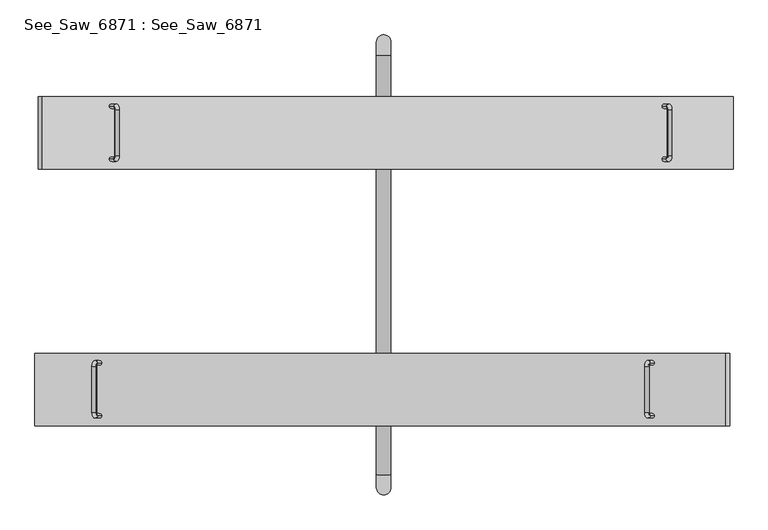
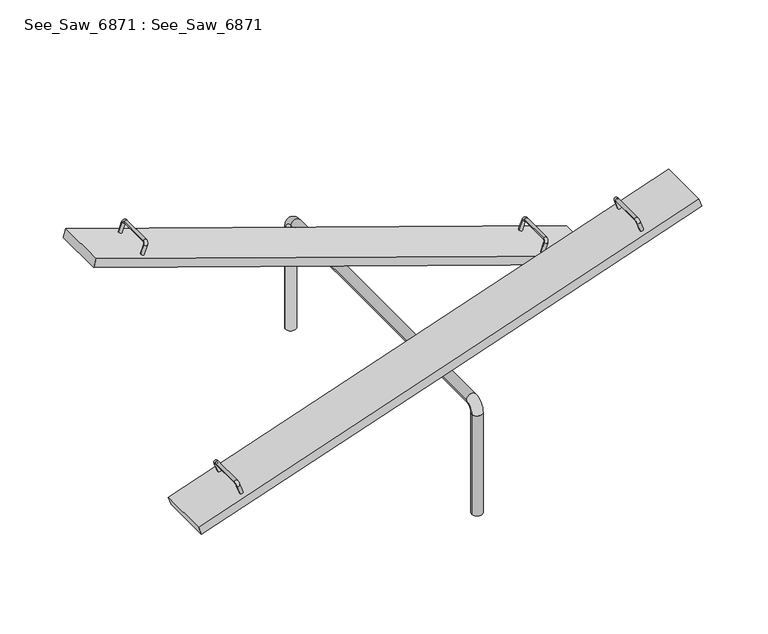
"""IFC4 building model written with IfcOpenShell, lengths in millimetres: proxy geometry, See_Saw_6871 : See_Saw_6871."""

from ifc_helpers import new_model, si_unit, point, frame, origin, place, context, project, spatial, polyline, circle_curve, ellipse_curve, trimmed, outline, extrude, source, transform, mapped, element, save
from ifc_brep_helpers import plane_surface, cylinder_surface, revolved_surface, advanced_brep


def see_saw_6871_see_saw_6871_e7888e2e(model_context):
    return source(origin(), model_context, "Body", "SolidModel", [
        advanced_brep(
        [(1177.7831476, 646.6397404, 163.5597519), (1159.8258272, 646.6397404, 169.9187726), (1178.9028892, 646.6397404, 223.7907338), (1196.8602096, 646.6397404, 217.4317132), (1184.0202339, 631.3094843, 238.2416693), (1201.9775543, 631.3094843, 231.8826486), (1184.0202339, 440.8094843, 238.2416693), (1201.9775543, 440.8094843, 231.8826486), (1178.9028892, 425.4792282, 223.7907338), (1196.8602096, 425.4792282, 217.4317132), (1177.7831476, 425.4792282, 163.5597519), (1159.8258272, 425.4792282, 169.9187726)],
        [
            (0, 1, circle_curve(frame((1168.8044874, 646.6397404, 166.7392623), z_axis=(-0.333806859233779, 0.0, -0.9426414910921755), x_axis=(-0.9426414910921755, 0.0, 0.333806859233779)), 9.525)),
            (1, 0, circle_curve(frame((1168.8044874, 646.6397404, 166.7392623), z_axis=(-0.333806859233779, 0.0, -0.9426414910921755), x_axis=(-0.9426414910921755, 0.0, 0.333806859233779)), 9.525)),
            (1, 2),
            (2, 3, circle_curve(frame((1187.8815494, 646.6397404, 220.6112235), z_axis=(-0.333806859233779, 0.0, -0.9426414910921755), x_axis=(-0.9426414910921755, 0.0, 0.333806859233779)), 9.525)),
            (3, 0),
            (3, 2, circle_curve(frame((1187.8815494, 646.6397404, 220.6112235), z_axis=(-0.333806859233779, 0.0, -0.9426414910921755), x_axis=(-0.9426414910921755, 0.0, 0.333806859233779)), 9.525)),
            (4, 5, circle_curve(frame((1192.9988941, 631.3094843, 235.062159), z_axis=(0.0, 1.0, 0.0), x_axis=(-0.9426414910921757, 0.0, 0.333806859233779)), 9.525)),
            (5, 3, circle_curve(frame((1196.8602096, 631.3094843, 217.4317132), z_axis=(-0.9426414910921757, 0.0, 0.3338068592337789), x_axis=(0.0, 1.0, 0.0)), 15.3302561)),
            (2, 4, circle_curve(frame((1178.9028892, 631.3094843, 223.7907338), z_axis=(0.9426414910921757, 0.0, -0.3338068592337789), x_axis=(0.0, 1.0, 0.0)), 15.3302561)),
            (5, 4, circle_curve(frame((1192.9988941, 631.3094843, 235.062159), z_axis=(0.0, 1.0, 0.0), x_axis=(-0.9426414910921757, 0.0, 0.333806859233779)), 9.525)),
            (4, 6),
            (6, 7, circle_curve(frame((1192.9988941, 440.8094843, 235.062159), z_axis=(0.0, 1.0, 0.0), x_axis=(-0.9426414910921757, 0.0, 0.333806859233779)), 9.525)),
            (7, 5),
            (7, 6, circle_curve(frame((1192.9988941, 440.8094843, 235.062159), z_axis=(0.0, 1.0, 0.0), x_axis=(-0.9426414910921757, 0.0, 0.333806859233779)), 9.525)),
            (8, 9, circle_curve(frame((1187.8815494, 425.4792282, 220.6112235), z_axis=(0.3338068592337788, 0.0, 0.9426414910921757), x_axis=(-0.9426414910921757, 0.0, 0.3338068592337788)), 9.525)),
            (9, 7, circle_curve(frame((1196.8602096, 440.8094843, 217.4317132), z_axis=(-0.9426414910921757, 0.0, 0.3338068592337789), x_axis=(0.3338068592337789, 0.0, 0.9426414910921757)), 15.3302561)),
            (6, 8, circle_curve(frame((1178.9028892, 440.8094843, 223.7907338), z_axis=(0.9426414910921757, 0.0, -0.3338068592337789), x_axis=(0.3338068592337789, 0.0, 0.9426414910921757)), 15.3302561)),
            (9, 8, circle_curve(frame((1187.8815494, 425.4792282, 220.6112235), z_axis=(0.3338068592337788, 0.0, 0.9426414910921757), x_axis=(-0.9426414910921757, 0.0, 0.3338068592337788)), 9.525)),
            (10, 11, circle_curve(frame((1168.8044874, 425.4792282, 166.7392623), z_axis=(-0.33380685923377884, 0.0, -0.9426414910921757), x_axis=(-0.9426414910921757, 0.0, 0.33380685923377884)), 9.525)),
            (11, 10, circle_curve(frame((1168.8044874, 425.4792282, 166.7392623), z_axis=(-0.33380685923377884, 0.0, -0.9426414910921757), x_axis=(-0.9426414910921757, 0.0, 0.33380685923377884)), 9.525)),
            (8, 11),
            (10, 9),
        ],
        [
            plane_surface(frame((1168.8044874, 646.6397404, 166.7392623), z_axis=(-0.333806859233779, 0.0, -0.9426414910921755), x_axis=(-0.9426414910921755, 0.0, 0.333806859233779))),
            cylinder_surface(frame((1168.8044874, 646.6397404, 166.7392623), z_axis=(-0.333806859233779, 0.0, -0.9426414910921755), x_axis=(-0.9426414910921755, 0.0, 0.333806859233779)), 9.525),
            revolved_surface(trimmed(ellipse_curve(frame((1187.8815494, 646.6397404, 220.6112235), z_axis=(0.333806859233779, 0.0, 0.9426414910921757), x_axis=(-0.9426414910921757, 0.0, 0.333806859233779)), 9.525, 9.525), [point((1196.8602096, 646.6397404, 217.4317132))], [point((1178.9028892, 646.6397404, 223.7907338))], True, "CARTESIAN"), (1187.8815494, 631.3094843, 220.6112235), (-0.9426414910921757, 0.0, 0.3338068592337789)),
            revolved_surface(trimmed(ellipse_curve(frame((1187.8815494, 646.6397404, 220.6112235), z_axis=(0.333806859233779, 0.0, 0.9426414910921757), x_axis=(-0.9426414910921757, 0.0, 0.333806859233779)), 9.525, 9.525), [point((1178.9028892, 646.6397404, 223.7907338))], [point((1196.8602096, 646.6397404, 217.4317132))], True, "CARTESIAN"), (1187.8815494, 631.3094843, 220.6112235), (-0.9426414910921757, 0.0, 0.3338068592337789)),
            cylinder_surface(frame((1192.9988941, 631.3094843, 235.062159), z_axis=(0.0, 1.0000000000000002, 0.0), x_axis=(-0.9426414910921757, 0.0, 0.333806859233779)), 9.525),
            revolved_surface(trimmed(ellipse_curve(frame((1192.9988941, 440.8094843, 235.062159), z_axis=(0.0, -1.0, 0.0), x_axis=(-0.9426414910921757, 0.0, 0.333806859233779)), 9.525, 9.525), [point((1201.9775543, 440.8094843, 231.8826486))], [point((1184.0202339, 440.8094843, 238.2416693))], True, "CARTESIAN"), (1187.8815494, 440.8094843, 220.6112235), (-0.9426414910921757, 0.0, 0.3338068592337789)),
            revolved_surface(trimmed(ellipse_curve(frame((1192.9988941, 440.8094843, 235.062159), z_axis=(0.0, -1.0, 0.0), x_axis=(-0.9426414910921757, 0.0, 0.333806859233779)), 9.525, 9.525), [point((1184.0202339, 440.8094843, 238.2416693))], [point((1201.9775543, 440.8094843, 231.8826486))], True, "CARTESIAN"), (1187.8815494, 440.8094843, 220.6112235), (-0.9426414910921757, 0.0, 0.3338068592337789)),
            plane_surface(frame((1168.8044874, 425.4792282, 166.7392623), z_axis=(-0.3338068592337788, 0.0, -0.9426414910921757), x_axis=(-0.9426414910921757, 0.0, 0.3338068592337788))),
            cylinder_surface(frame((1187.8815494, 425.4792282, 220.6112235), z_axis=(0.33380685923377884, 0.0, 0.9426414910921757), x_axis=(-0.9426414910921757, 0.0, 0.33380685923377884)), 9.525),
        ],
        [
            (0, [[1, 2]]),
            (1, [[3, 4, 5, -2]]),
            (1, [[-5, 6, -3, -1]]),
            (2, [[7, 8, -4, 9]]),
            (3, [[10, -9, -6, -8]]),
            (4, [[11, 12, 13, -7]]),
            (4, [[-13, 14, -11, -10]]),
            (5, [[15, 16, -12, 17]]),
            (6, [[18, -17, -14, -16]]),
            (7, [[19, 20]]),
            (8, [[21, -19, 22, -15]]),
            (8, [[-22, -20, -21, -18]]),
        ],
    ),
        advanced_brep(
        [(-1127.7693471, 646.6397404, 957.4251398), (-1145.7266675, 646.6397404, 963.7841604), (-1126.6496055, 646.6397404, 1017.6561217), (-1108.6922851, 646.6397404, 1011.297101), (-1121.5322609, 631.3094843, 1032.1070571), (-1103.5749404, 631.3094843, 1025.7480365), (-1121.5322609, 440.8094843, 1032.1070571), (-1103.5749404, 440.8094843, 1025.7480365), (-1126.6496055, 425.4792282, 1017.6561217), (-1108.6922851, 425.4792282, 1011.297101), (-1127.7693471, 425.4792282, 957.4251398), (-1145.7266675, 425.4792282, 963.7841604)],
        [
            (0, 1, circle_curve(frame((-1136.7480073, 646.6397404, 960.6046501), z_axis=(-0.333806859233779, 0.0, -0.9426414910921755), x_axis=(-0.9426414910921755, 0.0, 0.333806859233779)), 9.525)),
            (1, 0, circle_curve(frame((-1136.7480073, 646.6397404, 960.6046501), z_axis=(-0.333806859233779, 0.0, -0.9426414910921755), x_axis=(-0.9426414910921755, 0.0, 0.333806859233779)), 9.525)),
            (1, 2),
            (2, 3, circle_curve(frame((-1117.6709453, 646.6397404, 1014.4766113), z_axis=(-0.333806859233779, 0.0, -0.9426414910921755), x_axis=(-0.9426414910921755, 0.0, 0.333806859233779)), 9.525)),
            (3, 0),
            (3, 2, circle_curve(frame((-1117.6709453, 646.6397404, 1014.4766113), z_axis=(-0.333806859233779, 0.0, -0.9426414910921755), x_axis=(-0.9426414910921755, 0.0, 0.333806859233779)), 9.525)),
            (4, 5, circle_curve(frame((-1112.5536007, 631.3094843, 1028.9275468), z_axis=(0.0, 1.0, 0.0), x_axis=(-0.9426414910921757, 0.0, 0.333806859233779)), 9.525)),
            (5, 3, circle_curve(frame((-1108.6922851, 631.3094843, 1011.297101), z_axis=(-0.9426414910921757, 0.0, 0.3338068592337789), x_axis=(0.0, 1.0, 0.0)), 15.3302561)),
            (2, 4, circle_curve(frame((-1126.6496055, 631.3094843, 1017.6561217), z_axis=(0.9426414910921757, 0.0, -0.3338068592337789), x_axis=(0.0, 1.0, 0.0)), 15.3302561)),
            (5, 4, circle_curve(frame((-1112.5536007, 631.3094843, 1028.9275468), z_axis=(0.0, 1.0, 0.0), x_axis=(-0.9426414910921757, 0.0, 0.333806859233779)), 9.525)),
            (4, 6),
            (6, 7, circle_curve(frame((-1112.5536007, 440.8094843, 1028.9275468), z_axis=(0.0, 1.0, 0.0), x_axis=(-0.9426414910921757, 0.0, 0.333806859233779)), 9.525)),
            (7, 5),
            (7, 6, circle_curve(frame((-1112.5536007, 440.8094843, 1028.9275468), z_axis=(0.0, 1.0, 0.0), x_axis=(-0.9426414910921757, 0.0, 0.333806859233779)), 9.525)),
            (8, 9, circle_curve(frame((-1117.6709453, 425.4792282, 1014.4766113), z_axis=(0.3338068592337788, 0.0, 0.9426414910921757), x_axis=(-0.9426414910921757, 0.0, 0.3338068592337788)), 9.525)),
            (9, 7, circle_curve(frame((-1108.6922851, 440.8094843, 1011.297101), z_axis=(-0.9426414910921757, 0.0, 0.3338068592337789), x_axis=(0.3338068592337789, 0.0, 0.9426414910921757)), 15.3302561)),
            (6, 8, circle_curve(frame((-1126.6496055, 440.8094843, 1017.6561217), z_axis=(0.9426414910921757, 0.0, -0.3338068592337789), x_axis=(0.3338068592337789, 0.0, 0.9426414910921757)), 15.3302561)),
            (9, 8, circle_curve(frame((-1117.6709453, 425.4792282, 1014.4766113), z_axis=(0.3338068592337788, 0.0, 0.9426414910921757), x_axis=(-0.9426414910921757, 0.0, 0.3338068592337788)), 9.525)),
            (10, 11, circle_curve(frame((-1136.7480073, 425.4792282, 960.6046501), z_axis=(-0.33380685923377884, 0.0, -0.9426414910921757), x_axis=(-0.9426414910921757, 0.0, 0.33380685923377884)), 9.525)),
            (11, 10, circle_curve(frame((-1136.7480073, 425.4792282, 960.6046501), z_axis=(-0.33380685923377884, 0.0, -0.9426414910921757), x_axis=(-0.9426414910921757, 0.0, 0.33380685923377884)), 9.525)),
            (8, 11),
            (10, 9),
        ],
        [
            plane_surface(frame((-1136.7480073, 646.6397404, 960.6046501), z_axis=(-0.333806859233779, 0.0, -0.9426414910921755), x_axis=(-0.9426414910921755, 0.0, 0.333806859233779))),
            cylinder_surface(frame((-1136.7480073, 646.6397404, 960.6046501), z_axis=(-0.333806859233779, 0.0, -0.9426414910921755), x_axis=(-0.9426414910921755, 0.0, 0.333806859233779)), 9.525),
            revolved_surface(trimmed(ellipse_curve(frame((-1117.6709453, 646.6397404, 1014.4766113), z_axis=(0.333806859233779, 0.0, 0.9426414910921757), x_axis=(-0.9426414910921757, 0.0, 0.333806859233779)), 9.525, 9.525), [point((-1108.6922851, 646.6397404, 1011.297101))], [point((-1126.6496055, 646.6397404, 1017.6561217))], True, "CARTESIAN"), (-1117.6709453, 631.3094843, 1014.4766113), (-0.9426414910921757, 0.0, 0.3338068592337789)),
            revolved_surface(trimmed(ellipse_curve(frame((-1117.6709453, 646.6397404, 1014.4766113), z_axis=(0.333806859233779, 0.0, 0.9426414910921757), x_axis=(-0.9426414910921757, 0.0, 0.333806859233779)), 9.525, 9.525), [point((-1126.6496055, 646.6397404, 1017.6561217))], [point((-1108.6922851, 646.6397404, 1011.297101))], True, "CARTESIAN"), (-1117.6709453, 631.3094843, 1014.4766113), (-0.9426414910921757, 0.0, 0.3338068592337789)),
            cylinder_surface(frame((-1112.5536007, 631.3094843, 1028.9275468), z_axis=(0.0, 1.0000000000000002, 0.0), x_axis=(-0.9426414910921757, 0.0, 0.333806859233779)), 9.525),
            revolved_surface(trimmed(ellipse_curve(frame((-1112.5536007, 440.8094843, 1028.9275468), z_axis=(0.0, -1.0, 0.0), x_axis=(-0.9426414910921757, 0.0, 0.333806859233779)), 9.525, 9.525), [point((-1103.5749404, 440.8094843, 1025.7480365))], [point((-1121.5322609, 440.8094843, 1032.1070571))], True, "CARTESIAN"), (-1117.6709453, 440.8094843, 1014.4766113), (-0.9426414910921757, 0.0, 0.3338068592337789)),
            revolved_surface(trimmed(ellipse_curve(frame((-1112.5536007, 440.8094843, 1028.9275468), z_axis=(0.0, -1.0, 0.0), x_axis=(-0.9426414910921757, 0.0, 0.333806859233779)), 9.525, 9.525), [point((-1121.5322609, 440.8094843, 1032.1070571))], [point((-1103.5749404, 440.8094843, 1025.7480365))], True, "CARTESIAN"), (-1117.6709453, 440.8094843, 1014.4766113), (-0.9426414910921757, 0.0, 0.3338068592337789)),
            plane_surface(frame((-1136.7480073, 425.4792282, 960.6046501), z_axis=(-0.33380685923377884, 0.0, -0.9426414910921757), x_axis=(-0.9426414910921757, 0.0, 0.33380685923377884))),
            cylinder_surface(frame((-1117.6709453, 425.4792282, 1014.4766113), z_axis=(0.33380685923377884, 0.0, 0.9426414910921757), x_axis=(-0.9426414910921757, 0.0, 0.33380685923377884)), 9.525),
        ],
        [
            (0, [[1, 2]]),
            (1, [[3, 4, 5, -2]]),
            (1, [[-5, 6, -3, -1]]),
            (2, [[7, 8, -4, 9]]),
            (3, [[10, -9, -6, -8]]),
            (4, [[11, 12, 13, -7]]),
            (4, [[-13, 14, -11, -10]]),
            (5, [[15, 16, -12, 17]]),
            (6, [[18, -17, -14, -16]]),
            (7, [[19, 20]]),
            (8, [[21, -19, 22, -15]]),
            (8, [[-22, -20, -21, -18]]),
        ],
    ),
        advanced_brep(
        [(1130.6981871, -424.9005199, 972.1901568), (1112.6860582, -424.9005199, 965.9880835), (1094.0798382, -424.9005199, 1020.0244701), (1112.0919671, -424.9005199, 1026.2265434), (1089.088795, -440.230776, 1034.519512), (1107.1009239, -440.230776, 1040.7215854), (1089.088795, -630.730776, 1034.519512), (1107.1009239, -630.730776, 1040.7215854), (1094.0798382, -646.0610322, 1020.0244701), (1112.0919671, -646.0610322, 1026.2265434), (1130.6981871, -646.0610322, 972.1901568), (1112.6860582, -646.0610322, 965.9880835)],
        [
            (0, 1, circle_curve(frame((1121.6921227, -424.9005199, 969.0891202), z_axis=(0.32556815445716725, 0.0, -0.9455185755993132), x_axis=(-0.9455185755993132, 0.0, -0.32556815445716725)), 9.525)),
            (1, 0, circle_curve(frame((1121.6921227, -424.9005199, 969.0891202), z_axis=(0.32556815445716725, 0.0, -0.9455185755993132), x_axis=(-0.9455185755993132, 0.0, -0.32556815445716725)), 9.525)),
            (1, 2),
            (2, 3, circle_curve(frame((1103.0859026, -424.9005199, 1023.1255068), z_axis=(0.32556815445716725, 0.0, -0.9455185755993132), x_axis=(-0.9455185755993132, 0.0, -0.32556815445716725)), 9.525)),
            (3, 0),
            (3, 2, circle_curve(frame((1103.0859026, -424.9005199, 1023.1255068), z_axis=(0.32556815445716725, 0.0, -0.9455185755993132), x_axis=(-0.9455185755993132, 0.0, -0.32556815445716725)), 9.525)),
            (4, 5, circle_curve(frame((1098.0948594, -440.230776, 1037.6205487), z_axis=(0.0, 1.0, 0.0), x_axis=(-0.9455185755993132, 0.0, -0.32556815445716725)), 9.525)),
            (5, 3, circle_curve(frame((1112.0919671, -440.230776, 1026.2265434), z_axis=(-0.9455185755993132, 0.0, -0.32556815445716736), x_axis=(0.0, 1.0, 0.0)), 15.3302561)),
            (2, 4, circle_curve(frame((1094.0798382, -440.230776, 1020.0244701), z_axis=(0.9455185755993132, 0.0, 0.32556815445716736), x_axis=(0.0, 1.0, 0.0)), 15.3302561)),
            (5, 4, circle_curve(frame((1098.0948594, -440.230776, 1037.6205487), z_axis=(0.0, 1.0, 0.0), x_axis=(-0.9455185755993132, 0.0, -0.32556815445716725)), 9.525)),
            (4, 6),
            (6, 7, circle_curve(frame((1098.0948594, -630.730776, 1037.6205487), z_axis=(0.0, 1.0, 0.0), x_axis=(-0.9455185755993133, 0.0, -0.3255681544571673)), 9.525)),
            (7, 5),
            (7, 6, circle_curve(frame((1098.0948594, -630.730776, 1037.6205487), z_axis=(0.0, 1.0, 0.0), x_axis=(-0.9455185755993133, 0.0, -0.3255681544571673)), 9.525)),
            (8, 9, circle_curve(frame((1103.0859026, -646.0610322, 1023.1255068), z_axis=(-0.32556815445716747, 0.0, 0.9455185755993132), x_axis=(-0.9455185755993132, 0.0, -0.32556815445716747)), 9.525)),
            (9, 7, circle_curve(frame((1112.0919671, -630.730776, 1026.2265434), z_axis=(-0.9455185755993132, 0.0, -0.32556815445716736), x_axis=(-0.32556815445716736, 0.0, 0.9455185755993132)), 15.3302561)),
            (6, 8, circle_curve(frame((1094.0798382, -630.730776, 1020.0244701), z_axis=(0.9455185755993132, 0.0, 0.32556815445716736), x_axis=(-0.32556815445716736, 0.0, 0.9455185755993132)), 15.3302561)),
            (9, 8, circle_curve(frame((1103.0859026, -646.0610322, 1023.1255068), z_axis=(-0.32556815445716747, 0.0, 0.9455185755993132), x_axis=(-0.9455185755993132, 0.0, -0.32556815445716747)), 9.525)),
            (10, 11, circle_curve(frame((1121.6921227, -646.0610322, 969.0891202), z_axis=(0.3255681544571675, 0.0, -0.9455185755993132), x_axis=(-0.9455185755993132, 0.0, -0.3255681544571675)), 9.525)),
            (11, 10, circle_curve(frame((1121.6921227, -646.0610322, 969.0891202), z_axis=(0.3255681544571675, 0.0, -0.9455185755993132), x_axis=(-0.9455185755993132, 0.0, -0.3255681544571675)), 9.525)),
            (8, 11),
            (10, 9),
        ],
        [
            plane_surface(frame((1121.6921227, -424.9005199, 969.0891202), z_axis=(0.32556815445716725, 0.0, -0.9455185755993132), x_axis=(-0.9455185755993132, 0.0, -0.32556815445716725))),
            cylinder_surface(frame((1121.6921227, -424.9005199, 969.0891202), z_axis=(0.32556815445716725, 0.0, -0.9455185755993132), x_axis=(-0.9455185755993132, 0.0, -0.32556815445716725)), 9.525),
            revolved_surface(trimmed(ellipse_curve(frame((1103.0859026, -424.9005199, 1023.1255068), z_axis=(-0.32556815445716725, 0.0, 0.9455185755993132), x_axis=(-0.9455185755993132, 0.0, -0.32556815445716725)), 9.525, 9.525), [point((1112.0919671, -424.9005199, 1026.2265434))], [point((1094.0798382, -424.9005199, 1020.0244701))], True, "CARTESIAN"), (1103.0859026, -440.230776, 1023.1255068), (-0.9455185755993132, 0.0, -0.32556815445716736)),
            revolved_surface(trimmed(ellipse_curve(frame((1103.0859026, -424.9005199, 1023.1255068), z_axis=(-0.32556815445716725, 0.0, 0.9455185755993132), x_axis=(-0.9455185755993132, 0.0, -0.32556815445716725)), 9.525, 9.525), [point((1094.0798382, -424.9005199, 1020.0244701))], [point((1112.0919671, -424.9005199, 1026.2265434))], True, "CARTESIAN"), (1103.0859026, -440.230776, 1023.1255068), (-0.9455185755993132, 0.0, -0.32556815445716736)),
            cylinder_surface(frame((1098.0948594, -440.230776, 1037.6205487), z_axis=(0.0, 1.0000000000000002, 0.0), x_axis=(-0.9455185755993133, 0.0, -0.3255681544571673)), 9.525),
            revolved_surface(trimmed(ellipse_curve(frame((1098.0948594, -630.730776, 1037.6205487), z_axis=(0.0, -1.0, 0.0), x_axis=(-0.9455185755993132, 0.0, -0.3255681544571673)), 9.525, 9.525), [point((1107.1009239, -630.730776, 1040.7215854))], [point((1089.088795, -630.730776, 1034.519512))], True, "CARTESIAN"), (1103.0859026, -630.730776, 1023.1255068), (-0.9455185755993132, 0.0, -0.32556815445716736)),
            revolved_surface(trimmed(ellipse_curve(frame((1098.0948594, -630.730776, 1037.6205487), z_axis=(0.0, -1.0, 0.0), x_axis=(-0.9455185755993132, 0.0, -0.3255681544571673)), 9.525, 9.525), [point((1089.088795, -630.730776, 1034.519512))], [point((1107.1009239, -630.730776, 1040.7215854))], True, "CARTESIAN"), (1103.0859026, -630.730776, 1023.1255068), (-0.9455185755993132, 0.0, -0.32556815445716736)),
            plane_surface(frame((1121.6921227, -646.0610322, 969.0891202), z_axis=(0.32556815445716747, 0.0, -0.9455185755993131), x_axis=(-0.9455185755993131, 0.0, -0.32556815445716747))),
            cylinder_surface(frame((1103.0859026, -646.0610322, 1023.1255068), z_axis=(-0.3255681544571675, 0.0, 0.9455185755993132), x_axis=(-0.9455185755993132, 0.0, -0.3255681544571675)), 9.525),
        ],
        [
            (0, [[1, 2]]),
            (1, [[3, 4, 5, -2]]),
            (1, [[-5, 6, -3, -1]]),
            (2, [[7, 8, -4, 9]]),
            (3, [[10, -9, -6, -8]]),
            (4, [[11, 12, 13, -7]]),
            (4, [[-13, 14, -11, -10]]),
            (5, [[15, 16, -12, 17]]),
            (6, [[18, -17, -14, -16]]),
            (7, [[19, 20]]),
            (8, [[21, -19, 22, -15]]),
            (8, [[-22, -20, -21, -18]]),
        ],
    ),
        advanced_brep(
        [(-1174.8543077, -424.9005199, 178.324769), (-1192.8664365, -424.9005199, 172.1226957), (-1211.4726565, -424.9005199, 226.1590823), (-1193.4605277, -424.9005199, 232.3611556), (-1216.4636997, -440.230776, 240.6541242), (-1198.4515709, -440.230776, 246.8561975), (-1216.4636997, -630.730776, 240.6541242), (-1198.4515709, -630.730776, 246.8561975), (-1211.4726565, -646.0610322, 226.1590823), (-1193.4605277, -646.0610322, 232.3611556), (-1174.8543077, -646.0610322, 178.324769), (-1192.8664365, -646.0610322, 172.1226957)],
        [
            (0, 1, circle_curve(frame((-1183.8603721, -424.9005199, 175.2237323), z_axis=(0.32556815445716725, 0.0, -0.9455185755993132), x_axis=(-0.9455185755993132, 0.0, -0.32556815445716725)), 9.525)),
            (1, 0, circle_curve(frame((-1183.8603721, -424.9005199, 175.2237323), z_axis=(0.32556815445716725, 0.0, -0.9455185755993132), x_axis=(-0.9455185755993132, 0.0, -0.32556815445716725)), 9.525)),
            (1, 2),
            (2, 3, circle_curve(frame((-1202.4665921, -424.9005199, 229.2601189), z_axis=(0.32556815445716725, 0.0, -0.9455185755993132), x_axis=(-0.9455185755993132, 0.0, -0.32556815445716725)), 9.525)),
            (3, 0),
            (3, 2, circle_curve(frame((-1202.4665921, -424.9005199, 229.2601189), z_axis=(0.32556815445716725, 0.0, -0.9455185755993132), x_axis=(-0.9455185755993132, 0.0, -0.32556815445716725)), 9.525)),
            (4, 5, circle_curve(frame((-1207.4576353, -440.230776, 243.7551609), z_axis=(0.0, 1.0, 0.0), x_axis=(-0.9455185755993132, 0.0, -0.32556815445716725)), 9.525)),
            (5, 3, circle_curve(frame((-1193.4605277, -440.230776, 232.3611556), z_axis=(-0.9455185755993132, 0.0, -0.32556815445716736), x_axis=(0.0, 1.0, 0.0)), 15.3302561)),
            (2, 4, circle_curve(frame((-1211.4726565, -440.230776, 226.1590823), z_axis=(0.9455185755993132, 0.0, 0.32556815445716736), x_axis=(0.0, 1.0, 0.0)), 15.3302561)),
            (5, 4, circle_curve(frame((-1207.4576353, -440.230776, 243.7551609), z_axis=(0.0, 1.0, 0.0), x_axis=(-0.9455185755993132, 0.0, -0.32556815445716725)), 9.525)),
            (4, 6),
            (6, 7, circle_curve(frame((-1207.4576353, -630.730776, 243.7551609), z_axis=(0.0, 1.0, 0.0), x_axis=(-0.9455185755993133, 0.0, -0.3255681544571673)), 9.525)),
            (7, 5),
            (7, 6, circle_curve(frame((-1207.4576353, -630.730776, 243.7551609), z_axis=(0.0, 1.0, 0.0), x_axis=(-0.9455185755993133, 0.0, -0.3255681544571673)), 9.525)),
            (8, 9, circle_curve(frame((-1202.4665921, -646.0610322, 229.2601189), z_axis=(-0.32556815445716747, 0.0, 0.9455185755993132), x_axis=(-0.9455185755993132, 0.0, -0.32556815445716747)), 9.525)),
            (9, 7, circle_curve(frame((-1193.4605277, -630.730776, 232.3611556), z_axis=(-0.9455185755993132, 0.0, -0.32556815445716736), x_axis=(-0.32556815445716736, 0.0, 0.9455185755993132)), 15.3302561)),
            (6, 8, circle_curve(frame((-1211.4726565, -630.730776, 226.1590823), z_axis=(0.9455185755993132, 0.0, 0.32556815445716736), x_axis=(-0.32556815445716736, 0.0, 0.9455185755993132)), 15.3302561)),
            (9, 8, circle_curve(frame((-1202.4665921, -646.0610322, 229.2601189), z_axis=(-0.32556815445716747, 0.0, 0.9455185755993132), x_axis=(-0.9455185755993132, 0.0, -0.32556815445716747)), 9.525)),
            (10, 11, circle_curve(frame((-1183.8603721, -646.0610322, 175.2237323), z_axis=(0.3255681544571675, 0.0, -0.9455185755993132), x_axis=(-0.9455185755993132, 0.0, -0.3255681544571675)), 9.525)),
            (11, 10, circle_curve(frame((-1183.8603721, -646.0610322, 175.2237323), z_axis=(0.3255681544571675, 0.0, -0.9455185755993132), x_axis=(-0.9455185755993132, 0.0, -0.3255681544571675)), 9.525)),
            (8, 11),
            (10, 9),
        ],
        [
            plane_surface(frame((-1183.8603721, -424.9005199, 175.2237323), z_axis=(0.32556815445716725, 0.0, -0.9455185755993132), x_axis=(-0.9455185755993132, 0.0, -0.32556815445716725))),
            cylinder_surface(frame((-1183.8603721, -424.9005199, 175.2237323), z_axis=(0.32556815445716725, 0.0, -0.9455185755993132), x_axis=(-0.9455185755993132, 0.0, -0.32556815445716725)), 9.525),
            revolved_surface(trimmed(ellipse_curve(frame((-1202.4665921, -424.9005199, 229.2601189), z_axis=(-0.32556815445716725, 0.0, 0.9455185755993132), x_axis=(-0.9455185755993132, 0.0, -0.32556815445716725)), 9.525, 9.525), [point((-1193.4605277, -424.9005199, 232.3611556))], [point((-1211.4726565, -424.9005199, 226.1590823))], True, "CARTESIAN"), (-1202.4665921, -440.230776, 229.2601189), (-0.9455185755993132, 0.0, -0.32556815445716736)),
            revolved_surface(trimmed(ellipse_curve(frame((-1202.4665921, -424.9005199, 229.2601189), z_axis=(-0.32556815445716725, 0.0, 0.9455185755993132), x_axis=(-0.9455185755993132, 0.0, -0.32556815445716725)), 9.525, 9.525), [point((-1211.4726565, -424.9005199, 226.1590823))], [point((-1193.4605277, -424.9005199, 232.3611556))], True, "CARTESIAN"), (-1202.4665921, -440.230776, 229.2601189), (-0.9455185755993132, 0.0, -0.32556815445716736)),
            cylinder_surface(frame((-1207.4576353, -440.230776, 243.7551609), z_axis=(0.0, 1.0000000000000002, 0.0), x_axis=(-0.9455185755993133, 0.0, -0.3255681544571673)), 9.525),
            revolved_surface(trimmed(ellipse_curve(frame((-1207.4576353, -630.730776, 243.7551609), z_axis=(0.0, -1.0, 0.0), x_axis=(-0.9455185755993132, 0.0, -0.3255681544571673)), 9.525, 9.525), [point((-1198.4515709, -630.730776, 246.8561975))], [point((-1216.4636997, -630.730776, 240.6541242))], True, "CARTESIAN"), (-1202.4665921, -630.730776, 229.2601189), (-0.9455185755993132, 0.0, -0.32556815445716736)),
            revolved_surface(trimmed(ellipse_curve(frame((-1207.4576353, -630.730776, 243.7551609), z_axis=(0.0, -1.0, 0.0), x_axis=(-0.9455185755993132, 0.0, -0.3255681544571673)), 9.525, 9.525), [point((-1216.4636997, -630.730776, 240.6541242))], [point((-1198.4515709, -630.730776, 246.8561975))], True, "CARTESIAN"), (-1202.4665921, -630.730776, 229.2601189), (-0.9455185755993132, 0.0, -0.32556815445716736)),
            plane_surface(frame((-1183.8603721, -646.0610322, 175.2237323), z_axis=(0.32556815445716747, 0.0, -0.9455185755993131), x_axis=(-0.9455185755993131, 0.0, -0.32556815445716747))),
            cylinder_surface(frame((-1202.4665921, -646.0610322, 229.2601189), z_axis=(-0.3255681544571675, 0.0, 0.9455185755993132), x_axis=(-0.9455185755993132, 0.0, -0.3255681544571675)), 9.525),
        ],
        [
            (0, [[1, 2]]),
            (1, [[3, 4, 5, -2]]),
            (1, [[-5, 6, -3, -1]]),
            (2, [[7, 8, -4, 9]]),
            (3, [[10, -9, -6, -8]]),
            (4, [[11, 12, 13, -7]]),
            (4, [[-13, 14, -11, -10]]),
            (5, [[15, 16, -12, 17]]),
            (6, [[18, -17, -14, -16]]),
            (7, [[19, 20]]),
            (8, [[21, -19, 22, -15]]),
            (8, [[-22, -20, -21, -18]]),
        ],
    ),
        extrude(outline(polyline([(1028.2835434, 1443.5470888), (1076.315887, 1427.0082265), (83.9841522, -1454.9323919), (35.9518086, -1438.3935296), (532.117676, 2.5767796), (1028.2835434, 1443.5470888)])), frame((0.0, -688.6787987, 0.0), z_axis=(0.0, 1.0, 0.0), x_axis=(0.0, 0.0, 1.0)), (0.0, 0.0, 1.0), 303.3953834),
        extrude(outline(polyline([(20.8638504, 1440.9703092), (68.8961941, 1457.5091715), (1061.2279289, -1424.431447), (1013.1955852, -1440.9703092), (517.0297178, 0.0), (20.8638504, 1440.9703092)])), frame((0.0, 384.0405926, 0.0), z_axis=(0.0, 1.0, 0.0), x_axis=(0.0, 0.0, 1.0)), (0.0, 0.0, 1.0), 303.3953834),
        advanced_brep(
        [(-30.1488848, 914.4, -177.8), (30.1488848, 914.4, -177.8), (30.1488848, 914.4, 431.8), (-30.1488848, 914.4, 431.8), (30.1488848, 860.5184633, 485.6815367), (-30.1488848, 860.5184633, 485.6815367), (30.1488848, -892.0815367, 485.6815367), (-30.1488848, -892.0815367, 485.6815367), (30.1488848, -945.9630735, 431.8), (-30.1488848, -945.9630735, 431.8), (-30.1488848, -945.9630735, -177.8), (30.1488848, -945.9630735, -177.8)],
        [
            (0, 1, circle_curve(frame((0.0, 914.4, -177.8), z_axis=(0.0, 0.0, -1.0), x_axis=(1.0, 0.0, 0.0)), 30.1488848)),
            (1, 0, circle_curve(frame((0.0, 914.4, -177.8), z_axis=(0.0, 0.0, -1.0), x_axis=(1.0, 0.0, 0.0)), 30.1488848)),
            (1, 2),
            (2, 3, circle_curve(frame((0.0, 914.4, 431.8), z_axis=(0.0, 0.0, -1.0), x_axis=(1.0, 0.0, 0.0)), 30.1488848)),
            (3, 0),
            (3, 2, circle_curve(frame((0.0, 914.4, 431.8), z_axis=(0.0, 0.0, -1.0), x_axis=(1.0, 0.0, 0.0)), 30.1488848)),
            (4, 5, circle_curve(frame((0.0, 860.5184633, 485.6815367), z_axis=(0.0, 1.0, 0.0), x_axis=(1.0, 0.0, 0.0)), 30.1488848)),
            (5, 3, circle_curve(frame((-30.1488848, 860.5184633, 431.8), z_axis=(-1.0, 0.0, 0.0), x_axis=(0.0, 1.0, 0.0)), 53.8815367)),
            (2, 4, circle_curve(frame((30.1488848, 860.5184633, 431.8), z_axis=(1.0, 0.0, 0.0), x_axis=(0.0, 1.0, 0.0)), 53.8815367)),
            (5, 4, circle_curve(frame((0.0, 860.5184633, 485.6815367), z_axis=(0.0, 1.0, 0.0), x_axis=(1.0, 0.0, 0.0)), 30.1488848)),
            (4, 6),
            (6, 7, circle_curve(frame((0.0, -892.0815367, 485.6815367), z_axis=(0.0, 1.0, 0.0), x_axis=(1.0, 0.0, 0.0)), 30.1488848)),
            (7, 5),
            (7, 6, circle_curve(frame((0.0, -892.0815367, 485.6815367), z_axis=(0.0, 1.0, 0.0), x_axis=(1.0, 0.0, 0.0)), 30.1488848)),
            (8, 9, circle_curve(frame((0.0, -945.9630735, 431.8), z_axis=(0.0, 0.0, 1.0), x_axis=(1.0, 0.0, 0.0)), 30.1488848)),
            (9, 7, circle_curve(frame((-30.1488848, -892.0815367, 431.8), z_axis=(-1.0, 0.0, 0.0), x_axis=(0.0, 0.0, 1.0)), 53.8815367)),
            (6, 8, circle_curve(frame((30.1488848, -892.0815367, 431.8), z_axis=(1.0, 0.0, 0.0), x_axis=(0.0, 0.0, 1.0)), 53.8815367)),
            (9, 8, circle_curve(frame((0.0, -945.9630735, 431.8), z_axis=(0.0, 0.0, 1.0), x_axis=(1.0, 0.0, 0.0)), 30.1488848)),
            (10, 11, circle_curve(frame((0.0, -945.9630735, -177.8), z_axis=(0.0, 0.0, -1.0), x_axis=(1.0, 0.0, 0.0)), 30.1488848)),
            (11, 10, circle_curve(frame((0.0, -945.9630735, -177.8), z_axis=(0.0, 0.0, -1.0), x_axis=(1.0, 0.0, 0.0)), 30.1488848)),
            (8, 11),
            (10, 9),
        ],
        [
            plane_surface(frame((0.0, 914.4, -177.8), z_axis=(0.0, 0.0, -1.0), x_axis=(1.0, 0.0, 0.0))),
            cylinder_surface(frame((0.0, 914.4, -177.8), z_axis=(0.0, 0.0, -1.0), x_axis=(1.0, 0.0, 0.0)), 30.1488848),
            revolved_surface(trimmed(ellipse_curve(frame((0.0, 914.4, 431.8), z_axis=(0.0, 0.0, 1.0), x_axis=(1.0, 0.0, 0.0)), 30.1488848, 30.1488848), [point((-30.1488848, 914.4, 431.8))], [point((30.1488848, 914.4, 431.8))], True, "CARTESIAN"), (0.0, 860.5184633, 431.8), (-1.0, 0.0, 0.0)),
            revolved_surface(trimmed(ellipse_curve(frame((0.0, 914.4, 431.8), z_axis=(0.0, 0.0, 1.0), x_axis=(1.0, 0.0, 0.0)), 30.1488848, 30.1488848), [point((30.1488848, 914.4, 431.8))], [point((-30.1488848, 914.4, 431.8))], True, "CARTESIAN"), (0.0, 860.5184633, 431.8), (-1.0, 0.0, 0.0)),
            cylinder_surface(frame((0.0, 860.5184633, 485.6815367), z_axis=(0.0, 1.0, 0.0), x_axis=(1.0, 0.0, 0.0)), 30.1488848),
            revolved_surface(trimmed(ellipse_curve(frame((0.0, -892.0815367, 485.6815367), z_axis=(0.0, -1.0, 0.0), x_axis=(1.0, 0.0, 0.0)), 30.1488848, 30.1488848), [point((-30.1488848, -892.0815367, 485.6815367))], [point((30.1488848, -892.0815367, 485.6815367))], True, "CARTESIAN"), (0.0, -892.0815367, 431.8), (-1.0, 0.0, 0.0)),
            revolved_surface(trimmed(ellipse_curve(frame((0.0, -892.0815367, 485.6815367), z_axis=(0.0, -1.0, 0.0), x_axis=(1.0, 0.0, 0.0)), 30.1488848, 30.1488848), [point((30.1488848, -892.0815367, 485.6815367))], [point((-30.1488848, -892.0815367, 485.6815367))], True, "CARTESIAN"), (0.0, -892.0815367, 431.8), (-1.0, 0.0, 0.0)),
            plane_surface(frame((0.0, -945.9630735, -177.8), z_axis=(0.0, 0.0, -1.0), x_axis=(1.0, 0.0, 0.0))),
            cylinder_surface(frame((0.0, -945.9630735, 431.8), z_axis=(0.0, 0.0, 1.0), x_axis=(1.0, 0.0, 0.0)), 30.1488848),
        ],
        [
            (0, [[1, 2]]),
            (1, [[3, 4, 5, -2]]),
            (1, [[-5, 6, -3, -1]]),
            (2, [[7, 8, -4, 9]]),
            (3, [[10, -9, -6, -8]]),
            (4, [[11, 12, 13, -7]]),
            (4, [[-13, 14, -11, -10]]),
            (5, [[15, 16, -12, 17]]),
            (6, [[18, -17, -14, -16]]),
            (7, [[19, 20]]),
            (8, [[21, -19, 22, -15]]),
            (8, [[-22, -20, -21, -18]]),
        ],
    ),
    ])


if __name__ == "__main__":
    model = new_model("IFC4")
    model_context = context("Model", 3, world=origin())
    ifc_project = project(units=[si_unit("LENGTHUNIT", "METRE", prefix="MILLI")], contexts=[model_context])
    site = spatial("IfcSite", under=ifc_project)
    building = spatial("IfcBuilding", under=site)
    placement = place(None, origin())
    see_saw_6871_see_saw_6871_shape = see_saw_6871_see_saw_6871_e7888e2e(model_context)
    element("IfcBuildingElementProxy", 1, Name="See_Saw_6871 : See_Saw_6871", ObjectType="See_Saw_6871 : See_Saw_6871", at=placement, inside=building, context=model_context, shape_type="MappedRepresentation", body=[
        mapped(see_saw_6871_see_saw_6871_shape, transform((0.0, 0.0, 0.0), x_axis=(1.0, 0.0, 0.0), y_axis=(0.0, 1.0, 0.0), z_axis=(0.0, 0.0, 1.0))),
    ])
    save(model, "model.ifc")
